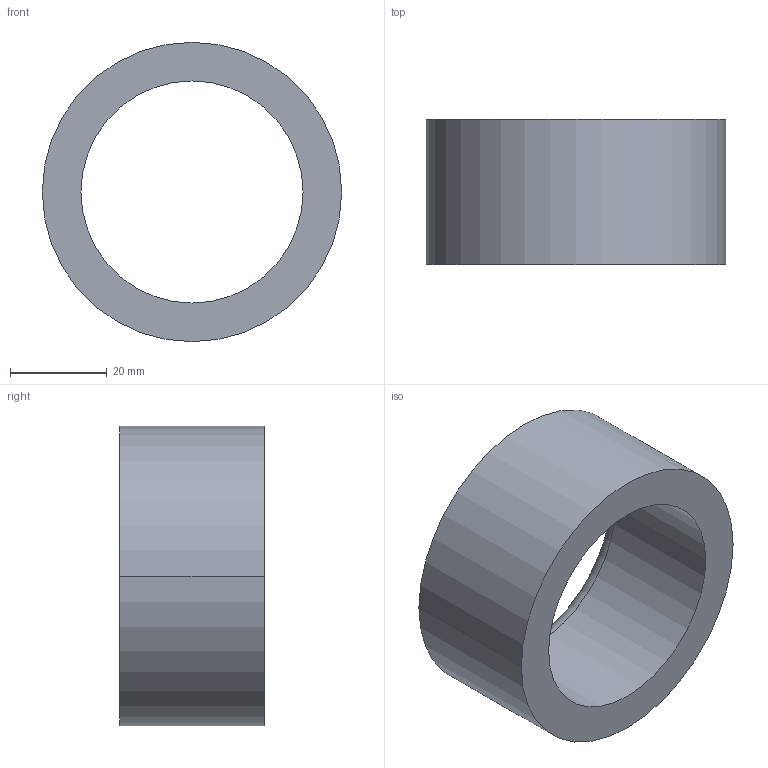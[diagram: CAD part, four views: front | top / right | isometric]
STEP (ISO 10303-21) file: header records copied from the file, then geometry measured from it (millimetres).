
FILE_DESCRIPTION (( 'STEP AP203' ), '1' );
FILE_NAME ('30800.WPP62L46.0.step', '2019-01-23T22:57:50', ( '' ), ( '' ), 'SwSTEP 2.0', 'SolidWorks 2017', '' );
FILE_SCHEMA (( 'CONFIG_CONTROL_DESIGN' ));
Length unit declared in the file: millimetre
Products named in the file (1): 30800.WPP62L46.0
Bounding box: 62 x 30 x 62 mm (x, y, z)
Volume: 40322.2 mm3; surface area: 12681.5 mm2
Topology: 1 solids, 1 shells, 8 faces, 16 edges, 10 vertices
Faces by surface type: cylinder 4, torus 2, plane 2
Entity records: 297 total; most frequent: DIRECTION 46, CARTESIAN_POINT 35, ORIENTED_EDGE 32, AXIS2_PLACEMENT_3D 21, EDGE_CURVE 16, CIRCLE 12, VERTEX_POINT 10, EDGE_LOOP 10
